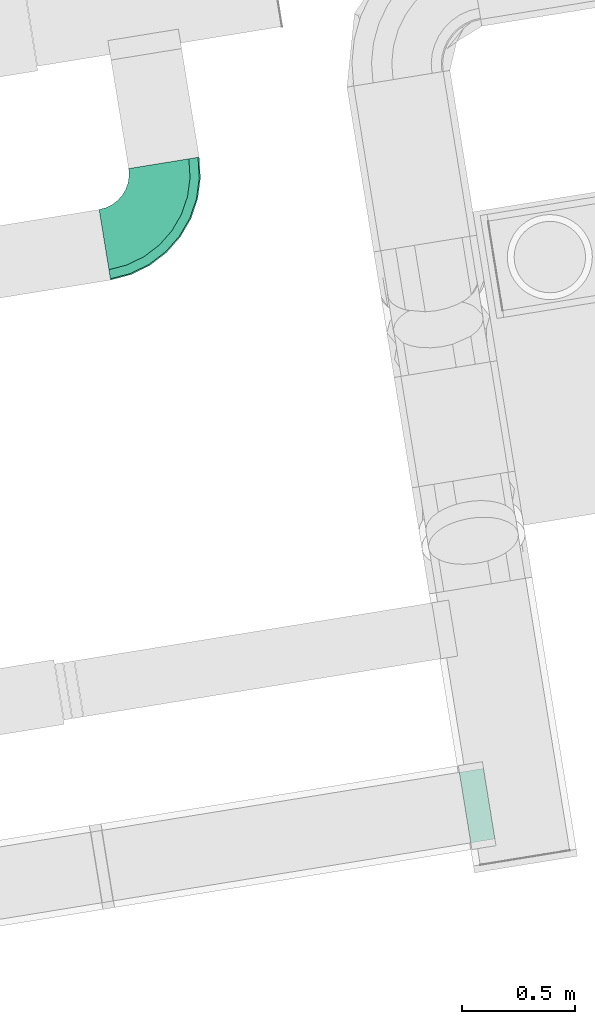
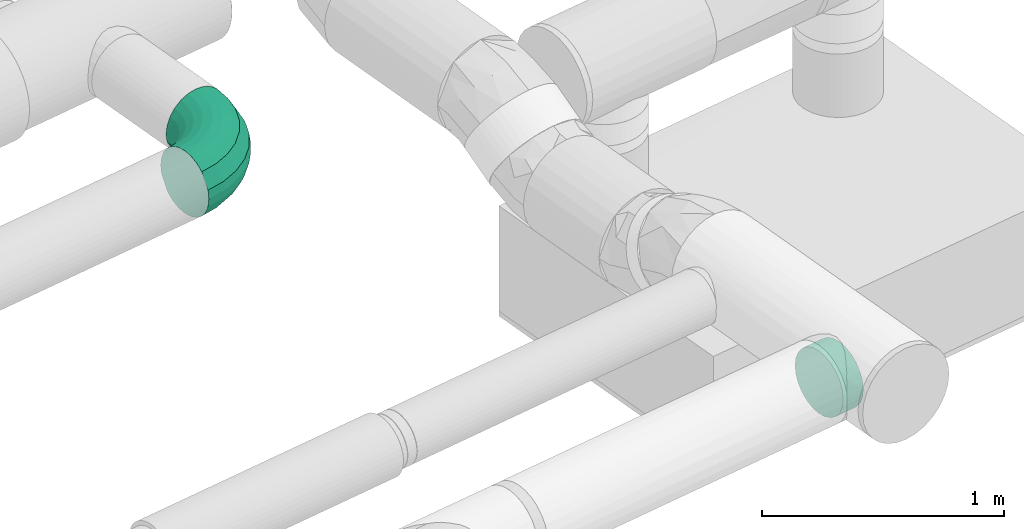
# One storey, part 31 of 39: 2 flow fittings.
"""IFC2X3 building model written with IfcOpenShell, lengths in millimetres."""

from ifc_helpers import new_model, entity, si_unit, converted_unit, derived_unit, direction, frame, origin, origin_with_axes, place, context, subcontext, project, spatial, faceted_brep, source, transform, mapped, material, type_object, element, save


model = new_model("IFC2X3")

# Units and contexts
model_context = context("Model", 3, precision=0.01, world=origin(), true_north=direction((6.12323399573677e-17, 1.0)))
plan_context = context("Plan", 3, precision=1e-05, world=origin_with_axes())
body_context = subcontext(model_context, "Body", "Model", "MODEL_VIEW")
ifc_project = project(units=[converted_unit("PLANEANGLEUNIT", "DEGREE", entity("IfcPositiveLengthMeasure", 0.0174532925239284), si_unit("PLANEANGLEUNIT", "RADIAN"), dimensions=[0, 0, 0, 0, 0, 0, 0]), si_unit("AREAUNIT", "SQUARE_METRE"), si_unit("LENGTHUNIT", "METRE", prefix="MILLI"), si_unit("MASSUNIT", "GRAM", prefix="KILO"), si_unit("POWERUNIT", "WATT"), si_unit("PRESSUREUNIT", "PASCAL", prefix="KILO"), si_unit("FORCEUNIT", "NEWTON", prefix="KILO"), si_unit("ELECTRICVOLTAGEUNIT", "VOLT"), si_unit("ELECTRICCURRENTUNIT", "AMPERE"), si_unit("THERMODYNAMICTEMPERATUREUNIT", "DEGREE_CELSIUS"), si_unit("TIMEUNIT", "SECOND"), si_unit("VOLUMEUNIT", "CUBIC_METRE"), derived_unit("LINEARVELOCITYUNIT", [(si_unit("LENGTHUNIT", "METRE"), 1), (si_unit("TIMEUNIT", "SECOND"), -1)]), derived_unit("VOLUMETRICFLOWRATEUNIT", [(si_unit("VOLUMEUNIT", "CUBIC_METRE"), 1), (si_unit("TIMEUNIT", "SECOND"), -1)]), derived_unit("THERMALTRANSMITTANCEUNIT", [(si_unit("POWERUNIT", "WATT"), 1), (si_unit("THERMODYNAMICTEMPERATUREUNIT", "KELVIN"), -1), (si_unit("AREAUNIT", "SQUARE_METRE"), -1)]), derived_unit("SOUNDPRESSUREUNIT", [(si_unit("PRESSUREUNIT", "PASCAL"), 1)])], contexts=[model_context, plan_context])

# Site, building, storey
site_placement = place(None, frame((-0.00071070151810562, 0.00438415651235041, 0.0), z_axis=(0.0, 0.0, 1.0), x_axis=(-0.160236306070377, 0.987078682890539, 0.0)))
site = spatial("IfcSite", under=ifc_project, at=site_placement, Name="Default", CompositionType="ELEMENT")
building_placement = place(site_placement, origin_with_axes())
building = spatial("IfcBuilding", under=site, at=building_placement, CompositionType="ELEMENT")
storey_placement = place(building_placement, frame((0.0, 0.0, 50999.9999999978), z_axis=(0.0, 0.0, 1.0), x_axis=(1.0, 0.0, 0.0)))
storey = spatial("IfcBuildingStorey", under=building, at=storey_placement, Name="Nivå D", CompositionType="ELEMENT", Elevation=50999.9999999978)

# Flow fittings
ifc_material = material(Name="<Unnamed>")
duct_fitting_type_1 = type_object("IfcDuctFittingType", Name="magicirc_tapoutlet_1:magicirc_tapoutlet_001", PredefinedType="NOTDEFINED", material=ifc_material)
shared_shape_1 = source(origin(), body_context, "Body", "Brep", [
    faceted_brep([(-82.8330696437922, 0.0, -157.500000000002), (-82.8330696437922, -40.7639996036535, -152.133317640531), (-82.8330696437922, -78.7500000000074, -136.399001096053), (-82.8330696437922, -111.36931803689, -111.369318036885), (-82.8330696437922, -136.399001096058, -78.7500000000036), (-82.8330696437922, -152.133317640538, -40.7639996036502), (-82.8330696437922, -157.500000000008, 0.0), (-82.8330696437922, -152.133317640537, 40.7639996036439), (-82.8330696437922, -136.399001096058, 78.749999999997), (-82.8330696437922, -111.36931803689, 111.369318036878), (-82.8330696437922, -78.7500000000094, 136.399001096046), (-82.8330696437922, -40.7639996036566, 152.133317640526), (-82.8330696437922, 0.0, 157.499999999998), (-82.8330696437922, 40.7639996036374, 152.133317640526), (-82.8330696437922, 78.7499999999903, 136.399001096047), (-82.8330696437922, 111.369318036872, 111.36931803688), (-82.8330696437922, 136.39900109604, 78.7499999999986), (-82.8330696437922, 152.133317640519, 40.7639996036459), (-82.8330696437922, 157.499999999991, 0.0), (-82.8330696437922, 152.13331764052, -40.7639996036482), (-82.8330696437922, 136.399001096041, -78.7500000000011), (-82.8330696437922, 111.369318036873, -111.369318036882), (-82.8330696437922, 78.7499999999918, -136.39900109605), (-82.8330696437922, 40.763999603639, -152.133317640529), (0.0, 40.7639996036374, 152.133317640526), (25.0, 40.7639996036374, 152.133317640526), (25.0, 78.7499999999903, 136.399001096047), (0.0, 78.7499999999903, 136.399001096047), (0.0, 0.0, 157.499999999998), (25.0, 0.0, 157.499999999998), (25.0, 111.369318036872, 111.36931803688), (0.0, 111.369318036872, 111.36931803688), (0.0, 136.39900109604, 78.7499999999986), (25.0, 136.39900109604, 78.7499999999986), (25.0, 152.133317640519, 40.7639996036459), (0.0, 152.133317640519, 40.7639996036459), (25.0, 157.499999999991, 0.0), (0.0, 157.499999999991, 0.0), (25.0, 152.13331764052, -40.7639996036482), (0.0, 152.13331764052, -40.7639996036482), (25.0, 136.399001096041, -78.7500000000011), (0.0, 136.399001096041, -78.7500000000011), (25.0, 111.369318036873, -111.369318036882), (0.0, 111.369318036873, -111.369318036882), (0.0, 78.7499999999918, -136.39900109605), (25.0, 78.7499999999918, -136.39900109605), (25.0, 40.763999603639, -152.133317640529), (0.0, 40.763999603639, -152.133317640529), (25.0, 0.0, -157.500000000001), (0.0, 0.0, -157.500000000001), (25.0, -40.7639996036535, -152.133317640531), (0.0, -40.7639996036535, -152.133317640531), (25.0, -78.7500000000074, -136.399001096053), (0.0, -78.7500000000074, -136.399001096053), (0.0, -111.36931803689, -111.369318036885), (25.0, -111.36931803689, -111.369318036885), (0.0, -136.399001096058, -78.7500000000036), (25.0, -136.399001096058, -78.7500000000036), (25.0, -152.133317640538, -40.7639996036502), (0.0, -152.133317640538, -40.7639996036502), (25.0, -157.50000000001, 0.0), (0.0, -157.50000000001, 0.0), (0.0, -152.133317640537, 40.7639996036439), (25.0, -152.133317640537, 40.7639996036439), (25.0, -136.399001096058, 78.749999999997), (0.0, -136.399001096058, 78.749999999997), (25.0, -111.36931803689, 111.369318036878), (0.0, -111.36931803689, 111.369318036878), (0.0, -78.7500000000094, 136.399001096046), (25.0, -78.7500000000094, 136.399001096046), (25.0, -40.7639996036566, 152.133317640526), (0.0, -40.7639996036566, 152.133317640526)], [[[0, 1, 2, 3, 4, 5, 6, 7, 8, 9, 10, 11, 12, 13, 14, 15, 16, 17, 18, 19, 20, 21, 22, 23]], [[24, 25, 26, 27, 14, 13]], [[28, 29, 25, 24, 13, 12]], [[15, 14, 27, 26, 30, 31]], [[17, 16, 32, 33, 34, 35]], [[18, 17, 35, 34, 36, 37]], [[31, 30, 33, 32, 16, 15]], [[18, 37, 36, 38, 39, 19]], [[19, 39, 38, 40, 41, 20]], [[41, 40, 42, 43, 21, 20]], [[23, 22, 44, 45, 46, 47]], [[0, 23, 47, 46, 48, 49]], [[43, 42, 45, 44, 22, 21]], [[0, 49, 48, 50, 51, 1]], [[1, 51, 50, 52, 53, 2]], [[54, 3, 2, 53, 52, 55]], [[5, 4, 56, 57, 58, 59]], [[6, 5, 59, 58, 60, 61]], [[54, 55, 57, 56, 4, 3]], [[62, 63, 64, 65, 8, 7]], [[61, 60, 63, 62, 7, 6]], [[9, 8, 65, 64, 66, 67]], [[11, 10, 68, 69, 70, 71]], [[12, 11, 71, 70, 29, 28]], [[67, 66, 69, 68, 10, 9]], [[46, 45, 42, 40, 38, 36, 34, 33, 30, 26, 25, 29, 70, 69, 66, 64, 63, 60, 58, 57, 55, 52, 50, 48]]]),
    faceted_brep([(25.0, 40.763999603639, -152.133317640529), (25.0, 78.7499999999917, -136.39900109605), (25.0, 111.369318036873, -111.369318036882), (25.0, 136.399001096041, -78.7500000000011), (25.0, 152.13331764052, -40.7639996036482), (25.0, 157.499999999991, 0.0), (25.0, 152.133317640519, 40.7639996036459), (25.0, 136.399001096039, 78.7499999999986), (25.0, 111.369318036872, 111.36931803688), (25.0, 78.7499999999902, 136.399001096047), (25.0, 40.7639996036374, 152.133317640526), (25.0, 0.0, 157.499999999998), (25.0, -40.7639996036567, 152.133317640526), (25.0, -78.7500000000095, 136.399001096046), (25.0, -111.369318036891, 111.369318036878), (25.0, -136.399001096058, 78.749999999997), (25.0, -152.133317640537, 40.7639996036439), (25.0, -157.50000000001, 0.0), (25.0, -152.133317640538, -40.7639996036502), (25.0, -136.399001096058, -78.7500000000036), (25.0, -111.36931803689, -111.369318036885), (25.0, -78.7500000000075, -136.399001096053), (25.0, -40.7639996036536, -152.133317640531), (25.0, 0.0, -157.500000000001), (0.0, 0.0, 157.499999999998), (0.0, 40.7639996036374, 152.133317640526), (-82.8330696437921, 40.7639996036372, 152.133317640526), (-82.8330696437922, 0.0, 157.499999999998), (0.0, 78.7499999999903, 136.399001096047), (-82.8330696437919, 78.7499999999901, 136.399001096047), (0.0, 111.369318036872, 111.36931803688), (-82.8330696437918, 111.369318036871, 111.36931803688), (0.0, 136.39900109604, 78.7499999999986), (0.0, 152.133317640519, 40.7639996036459), (-82.8330696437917, 152.133317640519, 40.7639996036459), (-82.8330696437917, 136.399001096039, 78.7499999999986), (0.0, 157.499999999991, 0.0), (-82.8330696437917, 157.499999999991, 0.0), (0.0, 152.13331764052, -40.7639996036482), (-82.8330696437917, 152.133317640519, -40.7639996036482), (0.0, 136.399001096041, -78.7500000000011), (-82.8330696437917, 136.39900109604, -78.7500000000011), (0.0, 111.369318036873, -111.369318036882), (-82.8330696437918, 111.369318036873, -111.369318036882), (0.0, 0.0, -157.500000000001), (-82.8330696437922, 0.0, -157.500000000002), (-82.8330696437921, 40.7639996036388, -152.133317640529), (0.0, 40.763999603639, -152.133317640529), (-82.8330696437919, 78.7499999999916, -136.39900109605), (0.0, 78.7499999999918, -136.39900109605), (0.0, -40.7639996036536, -152.133317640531), (-82.8330696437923, -40.7639996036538, -152.133317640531), (0.0, -78.7500000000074, -136.399001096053), (-82.8330696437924, -78.7500000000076, -136.399001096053), (0.0, -111.36931803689, -111.369318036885), (-82.8330696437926, -111.36931803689, -111.369318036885), (0.0, -136.399001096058, -78.7500000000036), (0.0, -152.133317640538, -40.7639996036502), (-82.8330696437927, -152.133317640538, -40.7639996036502), (-82.8330696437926, -136.399001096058, -78.7500000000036), (0.0, -157.50000000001, 0.0), (-82.8330696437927, -157.500000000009, 0.0), (0.0, -152.133317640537, 40.763999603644), (-82.8330696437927, -152.133317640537, 40.7639996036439), (0.0, -136.399001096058, 78.749999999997), (-82.8330696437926, -136.399001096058, 78.749999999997), (0.0, -111.36931803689, 111.369318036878), (-82.8330696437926, -111.369318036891, 111.369318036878), (0.0, -78.7500000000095, 136.399001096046), (0.0, -40.7639996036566, 152.133317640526), (-82.8330696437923, -40.7639996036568, 152.133317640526), (-82.8330696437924, -78.7500000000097, 136.399001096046)], [[[0, 1, 2, 3, 4, 5, 6, 7, 8, 9, 10, 11, 12, 13, 14, 15, 16, 17, 18, 19, 20, 21, 22, 23]], [[24, 11, 10, 25, 26, 27]], [[25, 10, 9, 28, 29, 26]], [[28, 9, 8, 30, 31, 29]], [[32, 7, 6, 33, 34, 35]], [[33, 6, 5, 36, 37, 34]], [[30, 8, 7, 32, 35, 31]], [[36, 5, 4, 38, 39, 37]], [[38, 4, 3, 40, 41, 39]], [[40, 3, 2, 42, 43, 41]], [[0, 23, 44, 45, 46, 47]], [[1, 0, 47, 46, 48, 49]], [[49, 48, 43, 42, 2, 1]], [[44, 23, 22, 50, 51, 45]], [[50, 22, 21, 52, 53, 51]], [[52, 21, 20, 54, 55, 53]], [[56, 19, 18, 57, 58, 59]], [[57, 18, 17, 60, 61, 58]], [[54, 20, 19, 56, 59, 55]], [[60, 17, 16, 62, 63, 61]], [[62, 16, 15, 64, 65, 63]], [[64, 15, 14, 66, 67, 65]], [[68, 13, 12, 69, 70, 71]], [[69, 12, 11, 24, 27, 70]], [[66, 14, 13, 68, 71, 67]], [[45, 51, 53, 55, 59, 58, 61, 63, 65, 67, 71, 70, 27, 26, 29, 31, 35, 34, 37, 39, 41, 43, 48, 46]]]),
    faceted_brep([(-82.8330696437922, 0.0, -157.500000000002), (-82.8330696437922, -40.7639996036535, -152.133317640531), (-82.8330696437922, -78.7500000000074, -136.399001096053), (-82.8330696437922, -111.36931803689, -111.369318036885), (-82.8330696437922, -136.399001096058, -78.7500000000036), (-82.8330696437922, -152.133317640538, -40.7639996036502), (-82.8330696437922, -157.500000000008, 0.0), (-82.8330696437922, -152.133317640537, 40.7639996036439), (-82.8330696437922, -136.399001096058, 78.749999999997), (-82.8330696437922, -111.36931803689, 111.369318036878), (-82.8330696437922, -78.7500000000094, 136.399001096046), (-82.8330696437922, -40.7639996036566, 152.133317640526), (-82.8330696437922, 0.0, 157.499999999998), (-82.8330696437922, 40.7639996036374, 152.133317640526), (-82.8330696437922, 78.7499999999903, 136.399001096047), (-82.8330696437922, 111.369318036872, 111.36931803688), (-82.8330696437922, 136.39900109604, 78.7499999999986), (-82.8330696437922, 152.133317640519, 40.7639996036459), (-82.8330696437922, 157.499999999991, 0.0), (-82.8330696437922, 152.13331764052, -40.7639996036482), (-82.8330696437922, 136.399001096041, -78.7500000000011), (-82.8330696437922, 111.369318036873, -111.369318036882), (-82.8330696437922, 78.7499999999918, -136.39900109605), (-82.8330696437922, 40.763999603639, -152.133317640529), (0.0, 40.7639996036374, 152.133317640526), (25.0, 40.7639996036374, 152.133317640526), (25.0, 78.7499999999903, 136.399001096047), (0.0, 78.7499999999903, 136.399001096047), (0.0, 0.0, 157.499999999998), (25.0, 0.0, 157.499999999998), (25.0, 111.369318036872, 111.36931803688), (0.0, 111.369318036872, 111.36931803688), (0.0, 136.39900109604, 78.7499999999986), (25.0, 136.39900109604, 78.7499999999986), (25.0, 152.133317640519, 40.7639996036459), (0.0, 152.133317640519, 40.7639996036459), (25.0, 157.499999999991, 0.0), (0.0, 157.499999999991, 0.0), (25.0, 152.13331764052, -40.7639996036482), (0.0, 152.13331764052, -40.7639996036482), (25.0, 136.399001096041, -78.7500000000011), (0.0, 136.399001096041, -78.7500000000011), (25.0, 111.369318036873, -111.369318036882), (0.0, 111.369318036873, -111.369318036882), (0.0, 78.7499999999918, -136.39900109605), (25.0, 78.7499999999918, -136.39900109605), (25.0, 40.763999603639, -152.133317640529), (0.0, 40.763999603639, -152.133317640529), (25.0, 0.0, -157.500000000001), (0.0, 0.0, -157.500000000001), (25.0, -40.7639996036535, -152.133317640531), (0.0, -40.7639996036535, -152.133317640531), (25.0, -78.7500000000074, -136.399001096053), (0.0, -78.7500000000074, -136.399001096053), (0.0, -111.36931803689, -111.369318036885), (25.0, -111.36931803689, -111.369318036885), (0.0, -136.399001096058, -78.7500000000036), (25.0, -136.399001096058, -78.7500000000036), (25.0, -152.133317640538, -40.7639996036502), (0.0, -152.133317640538, -40.7639996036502), (25.0, -157.50000000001, 0.0), (0.0, -157.50000000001, 0.0), (0.0, -152.133317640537, 40.7639996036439), (25.0, -152.133317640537, 40.7639996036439), (25.0, -136.399001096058, 78.749999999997), (0.0, -136.399001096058, 78.749999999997), (25.0, -111.36931803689, 111.369318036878), (0.0, -111.36931803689, 111.369318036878), (0.0, -78.7500000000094, 136.399001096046), (25.0, -78.7500000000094, 136.399001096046), (25.0, -40.7639996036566, 152.133317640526), (0.0, -40.7639996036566, 152.133317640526)], [[[0, 1, 2, 3, 4, 5, 6, 7, 8, 9, 10, 11, 12, 13, 14, 15, 16, 17, 18, 19, 20, 21, 22, 23]], [[24, 25, 26, 27, 14, 13]], [[28, 29, 25, 24, 13, 12]], [[15, 14, 27, 26, 30, 31]], [[17, 16, 32, 33, 34, 35]], [[18, 17, 35, 34, 36, 37]], [[31, 30, 33, 32, 16, 15]], [[18, 37, 36, 38, 39, 19]], [[19, 39, 38, 40, 41, 20]], [[41, 40, 42, 43, 21, 20]], [[23, 22, 44, 45, 46, 47]], [[0, 23, 47, 46, 48, 49]], [[43, 42, 45, 44, 22, 21]], [[0, 49, 48, 50, 51, 1]], [[1, 51, 50, 52, 53, 2]], [[54, 3, 2, 53, 52, 55]], [[5, 4, 56, 57, 58, 59]], [[6, 5, 59, 58, 60, 61]], [[54, 55, 57, 56, 4, 3]], [[62, 63, 64, 65, 8, 7]], [[61, 60, 63, 62, 7, 6]], [[9, 8, 65, 64, 66, 67]], [[11, 10, 68, 69, 70, 71]], [[12, 11, 71, 70, 29, 28]], [[67, 66, 69, 68, 10, 9]], [[46, 45, 42, 40, 38, 36, 34, 33, 30, 26, 25, 29, 70, 69, 66, 64, 63, 60, 58, 57, 55, 52, 50, 48]]]),
])
flow_fitting_1_placement = place(storey_placement, frame((769234.832653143, -600522.905078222, 3250.0), z_axis=(0.0, 0.0, 1.0), x_axis=(0.0, 1.0, 0.0)))
element("IfcFlowFitting", 1, at=flow_fitting_1_placement, inside=storey, type_object=duct_fitting_type_1, material=ifc_material, Name="magicirc_tapoutlet_1:magicirc_tapoutlet_001", ObjectType="magicirc_tapoutlet_1:magicirc_tapoutlet_001", context=body_context, shape_type="MappedRepresentation", body=[
    mapped(shared_shape_1, transform((0.0, 0.0, 0.0), scale=1.0)),
])
duct_fitting_type_2 = type_object("IfcDuctFittingType", Name="magicirc_elbow_full_radius_1:magicirc_elbow_full_radius_001", PredefinedType="NOTDEFINED", material=ifc_material)
shared_shape_2 = source(origin(), body_context, "Body", "Brep", [
    faceted_brep([(-222.819822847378, 148.421044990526, 0.0), (-223.866810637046, 143.157481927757, -40.7639996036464), (-315.0, 152.133317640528, -40.7639996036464), (-315.0, 157.5, 0.0), (-226.936423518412, 127.725495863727, -78.7499999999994), (-315.0, 136.399001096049, -78.7499999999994), (-231.819472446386, 103.176751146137, -111.369318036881), (-315.0, 111.369318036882, -111.369318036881), (-238.183185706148, 71.1842041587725, -136.399001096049), (-315.0, 78.7500000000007, -136.399001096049), (-245.593886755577, 33.9280941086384, -152.133317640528), (-315.0, 40.7639996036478, -152.133317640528), (-253.546548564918, -6.05263667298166, -157.5), (-315.0, 0.0, -157.5), (-261.499210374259, -46.0333674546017, -152.133317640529), (-315.0, -40.7639996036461, -152.133317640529), (-268.909911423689, -83.2894775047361, -136.39900109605), (-315.0, -78.7499999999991, -136.39900109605), (-275.27362468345, -115.282024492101, -111.369318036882), (-315.0, -111.369318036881, -111.369318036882), (-283.226286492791, -155.262755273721, -40.7639996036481), (-315.0, -152.133317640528, -40.7639996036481), (-284.273274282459, -160.526318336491, 0.0), (-315.0, -157.5, 0.0), (-283.226286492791, -155.262755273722, 40.7639996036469), (-315.0, -152.133317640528, 40.7639996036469), (-280.156673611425, -139.830769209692, 78.7499999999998), (-315.0, -136.399001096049, 78.7499999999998), (-275.27362468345, -115.282024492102, 111.369318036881), (-315.0, -111.369318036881, 111.369318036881), (-268.909911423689, -83.2894775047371, 136.399001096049), (-315.0, -78.7500000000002, 136.399001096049), (-261.499210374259, -46.0333674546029, 152.133317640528), (-315.0, -40.7639996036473, 152.133317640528), (-253.546548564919, -6.05263667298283, 157.5), (-315.0, 0.0, 157.5), (-245.593886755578, 33.9280941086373, 152.133317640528), (-315.0, 40.7639996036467, 152.133317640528), (-238.183185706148, 71.1842041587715, 136.399001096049), (-315.0, 78.7499999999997, 136.399001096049), (-231.819472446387, 103.176751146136, 111.369318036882), (-315.0, 111.369318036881, 111.369318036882), (-223.866810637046, 143.157481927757, 40.7639996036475), (-315.0, 152.133317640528, 40.7639996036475), (-134.182078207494, 121.533079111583, 0.0), (-136.235818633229, 116.574911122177, -40.7639996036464), (-142.25708089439, 102.03829810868, -78.7499999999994), (-151.835525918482, 78.9138862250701, -111.369318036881), (-164.318398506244, 48.7775659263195, -136.399001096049), (-178.855011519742, 13.6830776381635, -152.133317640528), (-194.454718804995, -23.9779472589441, -157.5), (-210.054426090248, -61.6389721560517, -152.133317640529), (-224.591039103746, -96.7334604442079, -136.39900109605), (-237.073911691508, -126.869780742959, -111.369318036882), (-252.673618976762, -164.530805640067, -40.7639996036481), (-254.727359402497, -169.488973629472, 0.0), (-252.673618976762, -164.530805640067, 40.7639996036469), (-246.652356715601, -149.994192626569, 78.7499999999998), (-237.073911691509, -126.86978074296, 111.369318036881), (-224.591039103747, -96.7334604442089, 136.399001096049), (-210.054426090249, -61.6389721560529, 152.133317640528), (-194.454718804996, -23.9779472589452, 157.5), (-178.855011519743, 13.6830776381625, 152.133317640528), (-164.318398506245, 48.7775659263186, 136.399001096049), (-151.835525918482, 78.9138862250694, 111.369318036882), (-136.23581863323, 116.574911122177, 40.7639996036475), (-52.4930648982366, 77.8693918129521, 0.0), (-55.4746338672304, 73.4071585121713, -40.7639996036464), (-64.2161517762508, 60.3245524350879, -78.7499999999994), (-78.1218986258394, 39.5131315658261, -111.369318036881), (-96.24422074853, 12.3911598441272, -136.399001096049), (-117.348111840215, -19.1930451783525, -152.133317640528), (-139.995376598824, -53.0870721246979, -157.5), (-162.642641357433, -86.9810990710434, -152.133317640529), (-183.746532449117, -118.565304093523, -136.39900109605), (-201.868854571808, -145.687275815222, -111.369318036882), (-224.516119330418, -179.581302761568, -40.7639996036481), (-227.497688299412, -184.043536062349, 0.0), (-224.516119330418, -179.581302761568, 40.7639996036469), (-215.774601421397, -166.498696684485, 78.7499999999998), (-201.868854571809, -145.687275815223, 111.369318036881), (-183.746532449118, -118.565304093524, 136.399001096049), (-162.642641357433, -86.9810990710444, 152.133317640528), (-139.995376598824, -53.0870721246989, 157.5), (-117.348111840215, -19.1930451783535, 152.133317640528), (-96.2442207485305, 12.3911598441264, 136.399001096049), (-78.1218986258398, 39.5131315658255, 111.369318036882), (-55.4746338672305, 73.4071585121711, 40.7639996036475), (19.1079541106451, 19.107954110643, 0.0), (15.3131366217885, 15.3131366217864, -40.7639996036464), (4.18729469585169, 4.18729469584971, -78.7499999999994), (-13.5113639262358, -13.5113639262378, -111.369318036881), (-36.5767049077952, -36.5767049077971, -136.399001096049), (-63.4368633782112, -63.436863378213, -152.133317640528), (-92.2613639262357, -92.2613639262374, -157.5), (-121.08586447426, -121.085864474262, -152.133317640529), (-147.946022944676, -147.946022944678, -136.39900109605), (-171.011363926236, -171.011363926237, -111.369318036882), (-199.835864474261, -199.835864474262, -40.7639996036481), (-203.630681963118, -203.630681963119, 0.0), (-199.835864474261, -199.835864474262, 40.7639996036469), (-188.710022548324, -188.710022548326, 78.7499999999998), (-171.011363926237, -171.011363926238, 111.369318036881), (-147.946022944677, -147.946022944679, 136.399001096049), (-121.085864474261, -121.085864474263, 152.133317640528), (-92.2613639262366, -92.2613639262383, 157.5), (-63.436863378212, -63.4368633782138, 152.133317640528), (-36.5767049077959, -36.5767049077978, 136.399001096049), (-13.5113639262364, -13.5113639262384, 111.369318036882), (15.3131366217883, 15.3131366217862, 40.7639996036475), (77.8693918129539, -52.4930648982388, 0.0), (73.4071585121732, -55.4746338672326, -40.7639996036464), (60.3245524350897, -64.2161517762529, -78.7499999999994), (39.5131315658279, -78.1218986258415, -111.369318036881), (12.391159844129, -96.244220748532, -136.399001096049), (-19.1930451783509, -117.348111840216, -152.133317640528), (-53.0870721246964, -139.995376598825, -157.5), (-86.9810990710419, -162.642641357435, -152.133317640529), (-118.565304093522, -183.746532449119, -136.39900109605), (-145.687275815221, -201.86885457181, -111.369318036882), (-179.581302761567, -224.516119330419, -40.7639996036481), (-184.043536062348, -227.497688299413, 0.0), (-179.581302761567, -224.516119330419, 40.7639996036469), (-166.498696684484, -215.774601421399, 78.7499999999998), (-145.687275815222, -201.86885457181, 111.369318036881), (-118.565304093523, -183.74653244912, 136.399001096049), (-86.9810990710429, -162.642641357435, 152.133317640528), (-53.0870721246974, -139.995376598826, 157.5), (-19.1930451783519, -117.348111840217, 152.133317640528), (12.3911598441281, -96.2442207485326, 136.399001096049), (39.5131315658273, -78.121898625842, 111.369318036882), (73.4071585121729, -55.4746338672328, 40.7639996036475), (121.533079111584, -134.182078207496, 0.0), (116.574911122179, -136.235818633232, -40.7639996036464), (102.038298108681, -142.257080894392, -78.7499999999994), (78.9138862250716, -151.835525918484, -111.369318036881), (48.7775659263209, -164.318398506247, -136.399001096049), (13.6830776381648, -178.855011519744, -152.133317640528), (-23.9779472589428, -194.454718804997, -157.5), (-61.6389721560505, -210.05442609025, -152.133317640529), (-96.7334604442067, -224.591039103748, -136.39900109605), (-126.869780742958, -237.07391169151, -111.369318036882), (-164.530805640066, -252.673618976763, -40.7639996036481), (-169.488973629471, -254.727359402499, 0.0), (-164.530805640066, -252.673618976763, 40.7639996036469), (-149.994192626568, -246.652356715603, 78.7499999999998), (-126.869780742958, -237.07391169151, 111.369318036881), (-96.7334604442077, -224.591039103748, 136.399001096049), (-61.6389721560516, -210.05442609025, 152.133317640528), (-23.9779472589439, -194.454718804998, 157.5), (13.6830776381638, -178.855011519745, 152.133317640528), (48.77756592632, -164.318398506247, 136.399001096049), (78.9138862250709, -151.835525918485, 111.369318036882), (116.574911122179, -136.235818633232, 40.7639996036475), (148.421044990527, -222.81982284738, 0.0), (143.157481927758, -223.866810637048, -40.7639996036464), (127.725495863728, -226.936423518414, -78.7499999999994), (103.176751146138, -231.819472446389, -111.369318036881), (71.1842041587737, -238.18318570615, -136.399001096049), (33.9280941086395, -245.59388675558, -152.133317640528), (-6.05263667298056, -253.54654856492, -157.5), (-46.0333674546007, -261.499210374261, -152.133317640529), (-83.289477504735, -268.90991142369, -136.39900109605), (-115.2820244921, -275.273624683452, -111.369318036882), (-155.26275527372, -283.226286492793, -40.7639996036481), (-160.52631833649, -284.27327428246, 0.0), (-155.262755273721, -283.226286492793, 40.7639996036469), (-139.830769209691, -280.156673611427, 78.7499999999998), (-115.282024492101, -275.273624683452, 111.369318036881), (-83.289477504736, -268.90991142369, 136.399001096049), (-46.0333674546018, -261.499210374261, 152.133317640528), (-6.05263667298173, -253.54654856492, 157.5), (33.9280941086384, -245.59388675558, 152.133317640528), (71.1842041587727, -238.183185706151, 136.399001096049), (103.176751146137, -231.819472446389, 111.369318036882), (143.157481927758, -223.866810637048, 40.7639996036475), (157.500000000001, -315.0, 0.0), (152.133317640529, -315.0, -40.7639996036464), (136.39900109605, -315.0, -78.7499999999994), (111.369318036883, -315.0, -111.369318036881), (78.7500000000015, -315.0, -136.399001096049), (40.7639996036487, -315.0, -152.133317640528), (0.0, -315.0, -157.5), (-40.7639996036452, -315.0, -152.133317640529), (-78.7499999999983, -315.0, -136.39900109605), (-111.36931803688, -315.0, -111.369318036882), (-152.133317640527, -315.0, -40.7639996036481), (-157.499999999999, -315.0, 0.0), (-152.133317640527, -315.0, 40.7639996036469), (-136.399001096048, -315.0, 78.7499999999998), (-111.369318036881, -315.0, 111.369318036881), (-78.7499999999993, -315.0, 136.399001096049), (-40.7639996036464, -315.0, 152.133317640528), (0.0, -315.0, 157.5), (40.7639996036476, -315.0, 152.133317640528), (78.7500000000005, -315.0, 136.399001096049), (111.369318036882, -315.0, 111.369318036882), (152.133317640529, -315.0, 40.7639996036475)], [[[0, 1, 2, 3]], [[1, 4, 5, 2]], [[4, 6, 7, 5]], [[6, 8, 9, 7]], [[8, 10, 11, 9]], [[10, 12, 13, 11]], [[12, 14, 15, 13]], [[14, 16, 17, 15]], [[16, 18, 19, 17]], [[18, 20, 21, 19]], [[20, 22, 23, 21]], [[22, 24, 25, 23]], [[24, 26, 27, 25]], [[26, 28, 29, 27]], [[28, 30, 31, 29]], [[30, 32, 33, 31]], [[32, 34, 35, 33]], [[34, 36, 37, 35]], [[36, 38, 39, 37]], [[38, 40, 41, 39]], [[40, 42, 43, 41]], [[42, 0, 3, 43]], [[44, 45, 1, 0]], [[45, 46, 4, 1]], [[46, 47, 6, 4]], [[47, 48, 8, 6]], [[48, 49, 10, 8]], [[49, 50, 12, 10]], [[50, 51, 14, 12]], [[51, 52, 16, 14]], [[52, 53, 18, 16]], [[53, 54, 20, 18]], [[54, 55, 22, 20]], [[55, 56, 24, 22]], [[56, 57, 26, 24]], [[57, 58, 28, 26]], [[58, 59, 30, 28]], [[59, 60, 32, 30]], [[60, 61, 34, 32]], [[61, 62, 36, 34]], [[62, 63, 38, 36]], [[63, 64, 40, 38]], [[64, 65, 42, 40]], [[65, 44, 0, 42]], [[66, 67, 45, 44]], [[67, 68, 46, 45]], [[68, 69, 47, 46]], [[69, 70, 48, 47]], [[70, 71, 49, 48]], [[71, 72, 50, 49]], [[72, 73, 51, 50]], [[73, 74, 52, 51]], [[74, 75, 53, 52]], [[75, 76, 54, 53]], [[76, 77, 55, 54]], [[77, 78, 56, 55]], [[78, 79, 57, 56]], [[79, 80, 58, 57]], [[80, 81, 59, 58]], [[81, 82, 60, 59]], [[82, 83, 61, 60]], [[83, 84, 62, 61]], [[84, 85, 63, 62]], [[85, 86, 64, 63]], [[86, 87, 65, 64]], [[87, 66, 44, 65]], [[88, 89, 67, 66]], [[89, 90, 68, 67]], [[90, 91, 69, 68]], [[91, 92, 70, 69]], [[92, 93, 71, 70]], [[93, 94, 72, 71]], [[94, 95, 73, 72]], [[95, 96, 74, 73]], [[96, 97, 75, 74]], [[97, 98, 76, 75]], [[98, 99, 77, 76]], [[99, 100, 78, 77]], [[100, 101, 79, 78]], [[101, 102, 80, 79]], [[102, 103, 81, 80]], [[103, 104, 82, 81]], [[104, 105, 83, 82]], [[105, 106, 84, 83]], [[106, 107, 85, 84]], [[107, 108, 86, 85]], [[108, 109, 87, 86]], [[109, 88, 66, 87]], [[110, 111, 89, 88]], [[111, 112, 90, 89]], [[112, 113, 91, 90]], [[113, 114, 92, 91]], [[114, 115, 93, 92]], [[115, 116, 94, 93]], [[116, 117, 95, 94]], [[117, 118, 96, 95]], [[118, 119, 97, 96]], [[119, 120, 98, 97]], [[120, 121, 99, 98]], [[121, 122, 100, 99]], [[122, 123, 101, 100]], [[123, 124, 102, 101]], [[124, 125, 103, 102]], [[125, 126, 104, 103]], [[126, 127, 105, 104]], [[127, 128, 106, 105]], [[128, 129, 107, 106]], [[129, 130, 108, 107]], [[130, 131, 109, 108]], [[131, 110, 88, 109]], [[132, 133, 111, 110]], [[133, 134, 112, 111]], [[134, 135, 113, 112]], [[135, 136, 114, 113]], [[136, 137, 115, 114]], [[137, 138, 116, 115]], [[138, 139, 117, 116]], [[139, 140, 118, 117]], [[140, 141, 119, 118]], [[141, 142, 120, 119]], [[142, 143, 121, 120]], [[143, 144, 122, 121]], [[144, 145, 123, 122]], [[145, 146, 124, 123]], [[146, 147, 125, 124]], [[147, 148, 126, 125]], [[148, 149, 127, 126]], [[149, 150, 128, 127]], [[150, 151, 129, 128]], [[151, 152, 130, 129]], [[152, 153, 131, 130]], [[153, 132, 110, 131]], [[154, 155, 133, 132]], [[155, 156, 134, 133]], [[156, 157, 135, 134]], [[157, 158, 136, 135]], [[158, 159, 137, 136]], [[159, 160, 138, 137]], [[160, 161, 139, 138]], [[161, 162, 140, 139]], [[162, 163, 141, 140]], [[163, 164, 142, 141]], [[164, 165, 143, 142]], [[165, 166, 144, 143]], [[166, 167, 145, 144]], [[167, 168, 146, 145]], [[168, 169, 147, 146]], [[169, 170, 148, 147]], [[170, 171, 149, 148]], [[171, 172, 150, 149]], [[172, 173, 151, 150]], [[173, 174, 152, 151]], [[174, 175, 153, 152]], [[175, 154, 132, 153]], [[176, 177, 155, 154]], [[177, 178, 156, 155]], [[178, 179, 157, 156]], [[179, 180, 158, 157]], [[180, 181, 159, 158]], [[181, 182, 160, 159]], [[182, 183, 161, 160]], [[183, 184, 162, 161]], [[184, 185, 163, 162]], [[185, 186, 164, 163]], [[186, 187, 165, 164]], [[187, 188, 166, 165]], [[188, 189, 167, 166]], [[189, 190, 168, 167]], [[190, 191, 169, 168]], [[191, 192, 170, 169]], [[192, 193, 171, 170]], [[193, 194, 172, 171]], [[194, 195, 173, 172]], [[195, 196, 174, 173]], [[196, 197, 175, 174]], [[197, 176, 154, 175]], [[3, 2, 5, 7, 9, 11, 13, 15, 17, 19, 21, 23, 25, 27, 29, 31, 33, 35, 37, 39, 41, 43]], [[197, 196, 195, 194, 193, 192, 191, 190, 189, 188, 187, 186, 185, 184, 183, 182, 181, 180, 179, 178, 177, 176]]]),
])
flow_fitting_2_placement = place(storey_placement, frame((771939.479289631, -599642.555921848, 3310.0), z_axis=(0.0, 0.0, 1.0), x_axis=(-1.0, 0.0, 0.0)))
element("IfcFlowFitting", 2, at=flow_fitting_2_placement, inside=storey, type_object=duct_fitting_type_2, material=ifc_material, Name="magicirc_elbow_full_radius_1:magicirc_elbow_full_radius_001", ObjectType="magicirc_elbow_full_radius_1:magicirc_elbow_full_radius_001", context=body_context, shape_type="MappedRepresentation", body=[
    mapped(shared_shape_2, transform((0.0, 0.0, 0.0), scale=1.0)),
])

save(model, "model.ifc")
